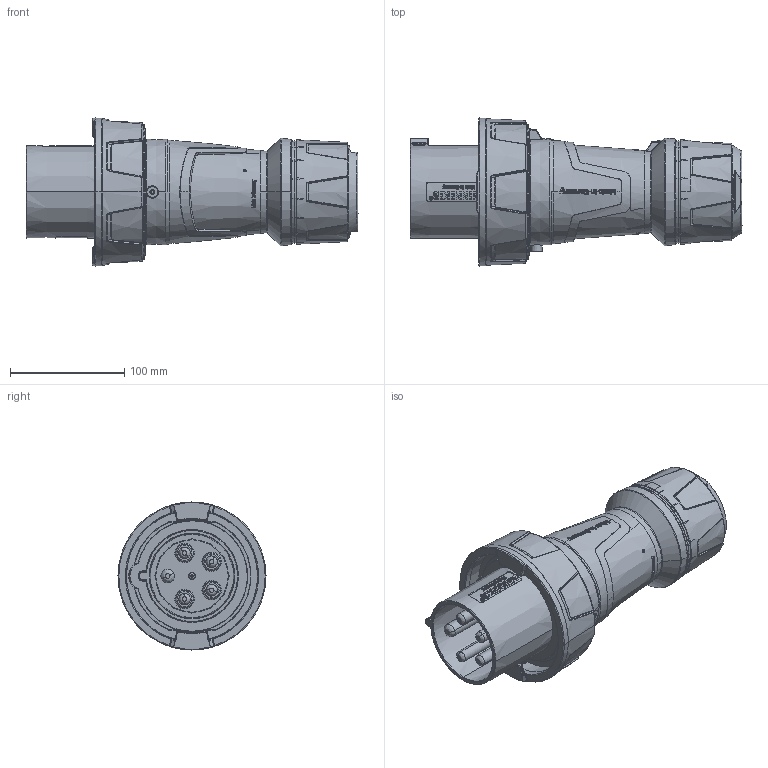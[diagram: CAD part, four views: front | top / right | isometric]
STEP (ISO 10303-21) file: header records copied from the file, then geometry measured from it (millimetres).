
FILE_DESCRIPTION((''),'2;1');
FILE_NAME('13261','2020-03-31T08:18:15',('Petermann'),('MENNEKES'),'CREO PARAMETRIC BY PTC INC, 2019080','CREO PARAMETRIC BY PTC INC, 2019080','');
FILE_SCHEMA(('AUTOMOTIVE_DESIGN { 1 0 10303 214 1 1 1 1 }'));
Products named in the file (1): 13261
Bounding box: 291 x 129.75 x 129.75 mm (x, y, z)
Volume: 1555853.5 mm3; surface area: 155099.8 mm2
Topology: 1 solids, 1 shells, 3333 faces, 9155 edges, 5921 vertices
Faces by surface type: plane 1209, extrusion 891, bspline 430, cylinder 375, cone 253, torus 147, sphere 28
Entity records: 175462 total; most frequent: CARTESIAN_POINT 56921, ORIENTED_EDGE 18258, DIRECTION 11792, EDGE_CURVE 9129, FILL_AREA_STYLE_COLOUR 6424, FILL_AREA_STYLE 6424, SURFACE_STYLE_FILL_AREA 6424, SURFACE_SIDE_STYLE 6424
